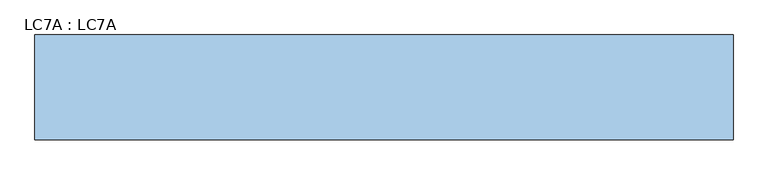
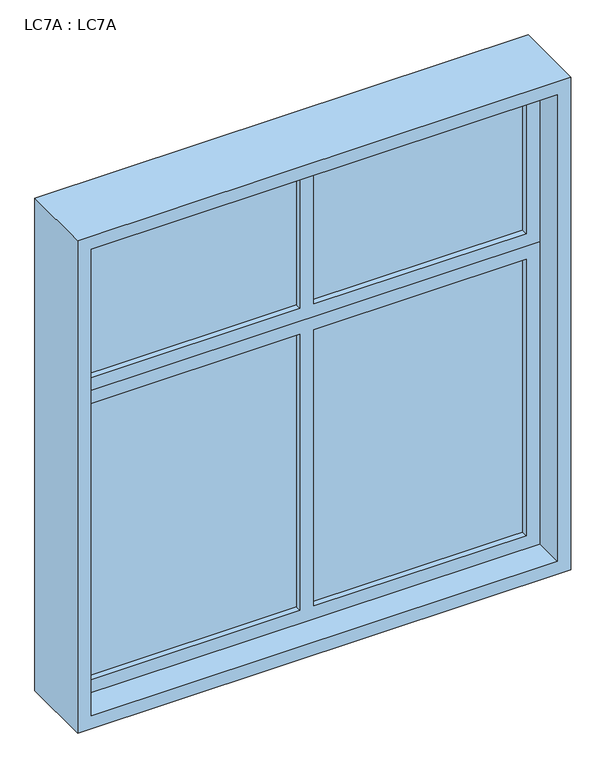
"""IFC4 building model written with IfcOpenShell, lengths in millimetres: window geometry, LC7A : LC7A."""

import ifcopenshell
import ifcopenshell.guid

model = None  # the IFC model being written
_history = None  # IfcOwnerHistory: only IFC2X3 demands one
_inside = {}  # id of a spatial element -> (the spatial element, [elements in it])
_under = {}  # id of a project, library or spatial element -> (it, [spatial elements below it])
_declared = {}  # id of a project -> (the project, [libraries it declares])
_typed = {}  # id of a type object -> (the type object, [elements of that type])
_made_of = {}  # id of a material, layer set ... -> (it, [elements and type objects made of it])


def new_model(schema):
    """Start an empty IFC model of exactly this schema.

    Asked for "IFC4X3", IfcOpenShell would pick the latest addendum, in which some entities
    have other attributes; the version numbers below select the first issue.
    IFC2X3 requires an IfcOwnerHistory on every rooted entity: one is made here for all.
    """
    global model, _history
    if schema == "IFC4X3":
        model = ifcopenshell.file(schema_version=(4, 3, 0, 0))
    else:
        model = ifcopenshell.file(schema=schema)
    _inside.clear()
    _under.clear()
    _declared.clear()
    _typed.clear()
    _made_of.clear()
    _history = None
    if model.schema == "IFC2X3":
        org = make("IfcOrganization", Name="unknown")
        user = make(
            "IfcPersonAndOrganization",
            ThePerson=make("IfcPerson", FamilyName="unknown"),
            TheOrganization=org,
        )
        app = make(
            "IfcApplication",
            ApplicationDeveloper=org,
            Version="unknown",
            ApplicationFullName="unknown",
            ApplicationIdentifier="unknown",
        )
        _history = make(
            "IfcOwnerHistory",
            OwningUser=user,
            OwningApplication=app,
            ChangeAction="ADDED",
            CreationDate=0,
        )
    return model


def make(cls, **values):
    """One entity of the class cls with the attributes given. An attribute that is None is left unset."""
    return model.create_entity(
        cls, **{name: value for name, value in values.items() if value is not None}
    )


def rooted(cls, **values):
    """An entity with a GlobalId (a new one), such as an element, a storey or a relation."""
    return make(cls, GlobalId=ifcopenshell.guid.new(), OwnerHistory=_history, **values)


def si_unit(unit_type, name, prefix=None):
    """IfcSIUnit, for example si_unit("LENGTHUNIT", "METRE", prefix="MILLI")."""
    return make("IfcSIUnit", UnitType=unit_type, Prefix=prefix, Name=name)


def assignment(units):
    """IfcUnitAssignment: the units of a project."""
    return None if units is None else make("IfcUnitAssignment", Units=units)


def point(xyz):
    """IfcCartesianPoint."""
    return None if xyz is None else make("IfcCartesianPoint", Coordinates=xyz)


def direction(xyz):
    """IfcDirection."""
    return None if xyz is None else make("IfcDirection", DirectionRatios=xyz)


def frame(location, z_axis=None, x_axis=None):
    """IfcAxis2Placement3D, a coordinate frame: its origin and axes. An axis left out is left unset."""
    return make(
        "IfcAxis2Placement3D",
        Location=point(location),
        Axis=direction(z_axis),
        RefDirection=direction(x_axis),
    )


def origin():
    """The frame at (0, 0, 0) with its axes left unset."""
    return frame((0.0, 0.0, 0.0))


def place(relative_to, where):
    """IfcLocalPlacement: puts the frame where relative to a parent placement (None: the world)."""
    return make(
        "IfcLocalPlacement", PlacementRelTo=relative_to, RelativePlacement=where
    )


def context(
    kind, dimensions, precision=None, world=None, true_north=None, identifier=None
):
    """IfcGeometricRepresentationContext, for example the 3D "Model" context."""
    return make(
        "IfcGeometricRepresentationContext",
        ContextIdentifier=identifier,
        ContextType=kind,
        CoordinateSpaceDimension=dimensions,
        Precision=precision,
        WorldCoordinateSystem=world,
        TrueNorth=true_north,
    )


def project(units=None, contexts=None):
    """IfcProject with its units and contexts."""
    return rooted(
        "IfcProject",
        Name="project",
        RepresentationContexts=contexts,
        UnitsInContext=assignment(units),
    )


def spatial(cls, under=None, at=None, **own):
    """A site, building, storey or space (cls), placed at a placement, below another one or the project."""
    s = rooted(cls, ObjectPlacement=at, **own)
    if under is not None:
        _under.setdefault(under.id(), (under, []))[1].append(s)
    return s


def polyline(points):
    """IfcPolyline through the points."""
    return make("IfcPolyline", Points=[point(p) for p in points])


def outline(outer, holes=None, kind="AREA"):
    """IfcArbitraryClosedProfileDef: a profile drawn as a closed curve; with holes, ...WithVoids."""
    if holes is None:
        return make("IfcArbitraryClosedProfileDef", ProfileType=kind, OuterCurve=outer)
    return make(
        "IfcArbitraryProfileDefWithVoids",
        ProfileType=kind,
        OuterCurve=outer,
        InnerCurves=holes,
    )


def extrude(swept, where, along, depth):
    """IfcExtrudedAreaSolid: the profile swept, set in the frame where, extruded along a direction by depth."""
    return make(
        "IfcExtrudedAreaSolid",
        SweptArea=swept,
        Position=where,
        ExtrudedDirection=direction(along),
        Depth=depth,
    )


def shape(context_of_items, identifier, shape_type, items):
    """IfcShapeRepresentation: the items that make up one representation, for example the "Body"."""
    return make(
        "IfcShapeRepresentation",
        ContextOfItems=context_of_items,
        RepresentationIdentifier=identifier,
        RepresentationType=shape_type,
        Items=items,
    )


def source(mapping_origin, context_of_items, identifier, shape_type, items):
    """IfcRepresentationMap: a shape defined once, which mapped items show again and again."""
    return make(
        "IfcRepresentationMap",
        MappingOrigin=mapping_origin,
        MappedRepresentation=shape(context_of_items, identifier, shape_type, items),
    )


def transform(
    local_origin,
    x_axis=None,
    y_axis=None,
    z_axis=None,
    scale=None,
    scale2=None,
    scale3=None,
    uniform=True,
):
    """IfcCartesianTransformationOperator3D, or its non-uniform kind. x_axis, y_axis, z_axis: its Axis1, 2, 3."""
    if uniform:
        return make(
            "IfcCartesianTransformationOperator3D",
            Axis1=direction(x_axis),
            Axis2=direction(y_axis),
            LocalOrigin=point(local_origin),
            Scale=scale,
            Axis3=direction(z_axis),
        )
    return make(
        "IfcCartesianTransformationOperator3DnonUniform",
        Axis1=direction(x_axis),
        Axis2=direction(y_axis),
        LocalOrigin=point(local_origin),
        Scale=scale,
        Axis3=direction(z_axis),
        Scale2=scale2,
        Scale3=scale3,
    )


def mapped(mapping_source, mapping_target):
    """IfcMappedItem: shows the shape of a source again, moved by a transform."""
    return make(
        "IfcMappedItem", MappingSource=mapping_source, MappingTarget=mapping_target
    )


def made_of(thing, what):
    """Note that an element or type object is made of a material, layer set ...; save() writes the relation."""
    if what is not None:
        _made_of.setdefault(what.id(), (what, []))[1].append(thing)
    return thing


def element(
    cls,
    number,
    at=None,
    inside=None,
    cuts=None,
    type_object=None,
    material=None,
    context=None,
    identifier="Body",
    shape_type=None,
    held_by="IfcProductDefinitionShape",
    body=None,
    shapes=None,
    **own,
):
    """One element of the class cls, such as IfcWall. Its Tag is "e" and its number.

    at: its placement. inside: the storey or other place that contains it. cuts: it is an
    opening in that element (IfcRelVoidsElement). A single representation is given by context,
    identifier, shape_type and body (its items); several are given by shapes. held_by: the class
    of the entity that holds the representations. save() writes the other relations.
    """
    e = rooted(cls, Tag="e%d" % number, ObjectPlacement=at, **own)
    if body is not None:
        shapes = [shape(context, identifier, shape_type, body)]
    if shapes is not None:
        e.Representation = make(held_by, Representations=shapes)
    if inside is not None:
        _inside.setdefault(inside.id(), (inside, []))[1].append(e)
    if cuts is not None:
        rooted(
            "IfcRelVoidsElement", RelatingBuildingElement=cuts, RelatedOpeningElement=e
        )
    if type_object is not None:
        _typed.setdefault(type_object.id(), (type_object, []))[1].append(e)
    return made_of(e, material)


def aggregate(whole, parts):
    """IfcRelAggregates: a whole, such as a stair, and the parts it consists of."""
    return rooted("IfcRelAggregates", RelatingObject=whole, RelatedObjects=parts)


def save(model, path):
    """Write the relations noted so far, then the file.

    IfcRelAggregates (storeys below a building ...), IfcRelContainedInSpatialStructure (elements
    in a storey), IfcRelDefinesByType, IfcRelAssociatesMaterial and IfcRelDeclares: one each for
    every whole, place, type object, material and project.
    """
    for whole, parts in _under.values():
        aggregate(whole, parts)
    for where, things in _inside.values():
        rooted(
            "IfcRelContainedInSpatialStructure",
            RelatedElements=things,
            RelatingStructure=where,
        )
    for kind, things in _typed.values():
        rooted("IfcRelDefinesByType", RelatedObjects=things, RelatingType=kind)
    for what, things in _made_of.values():
        rooted("IfcRelAssociatesMaterial", RelatedObjects=things, RelatingMaterial=what)
    for by, libraries in _declared.values():
        rooted("IfcRelDeclares", RelatingContext=by, RelatedDefinitions=libraries)
    model.write(path)


def lc7a_lc7a_17cb4d8c(model_context):
    return source(origin(), model_context, "Body", "SweptSolid", [
        extrude(outline(polyline([(-25.0, -2.5), (-800.0, -2.5), (-800.0, 2.5), (-25.0, 2.5), (-25.0, -2.5)])), frame((0.0, 0.0, 2765.6002921), z_axis=(0.0, 0.0, 1.0), x_axis=(1.0, 0.0, 0.0)), (0.0, 0.0, 1.0), 534.3997079),
        extrude(outline(polyline([(800.0, -2.5), (25.0, -2.5), (25.0, 2.5), (800.0, 2.5), (800.0, -2.5)])), frame((0.0, 0.0, 2765.6002921), z_axis=(0.0, 0.0, 1.0), x_axis=(1.0, 0.0, 0.0)), (0.0, 0.0, 1.0), 534.3997079),
        extrude(outline(polyline([(-25.0, -2.5), (-800.0, -2.5), (-800.0, 2.5), (-25.0, 2.5), (-25.0, -2.5)])), frame((0.0, 0.0, 1600.0), z_axis=(0.0, 0.0, 1.0), x_axis=(1.0, 0.0, 0.0)), (0.0, 0.0, 1.0), 1065.6002921),
        extrude(outline(polyline([(800.0, -2.5), (25.0, -2.5), (25.0, 2.5), (800.0, 2.5), (800.0, -2.5)])), frame((0.0, 0.0, 1600.0), z_axis=(0.0, 0.0, 1.0), x_axis=(1.0, 0.0, 0.0)), (0.0, 0.0, 1.0), 1065.6002921),
        extrude(outline(polyline([(2715.6002921, 850.0), (2715.6002921, -850.0), (1550.0, -850.0), (1550.0, 850.0), (2715.6002921, 850.0)]), holes=[polyline([(2665.6002921, -25.0), (1600.0, -25.0), (1600.0, -800.0), (2665.6002921, -800.0), (2665.6002921, -25.0)]), polyline([(2665.6002921, 800.0), (1600.0, 800.0), (1600.0, 25.0), (2665.6002921, 25.0), (2665.6002921, 800.0)])]), frame((0.0, -24.9048675, 0.0), z_axis=(0.0, 1.0, 0.0), x_axis=(0.0, 0.0, 1.0)), (0.0, 0.0, 1.0), 50.0),
        extrude(outline(polyline([(3350.0, 850.0), (3350.0, -850.0), (2715.6002921, -850.0), (2715.6002921, 850.0), (3350.0, 850.0)]), holes=[polyline([(3300.0, -25.0), (2765.6002921, -25.0), (2765.6002921, -800.0), (3300.0, -800.0), (3300.0, -25.0)]), polyline([(3300.0, 800.0), (2765.6002921, 800.0), (2765.6002921, 25.0), (3300.0, 25.0), (3300.0, 800.0)])]), frame((0.0, -24.9048675, 0.0), z_axis=(0.0, 1.0, 0.0), x_axis=(0.0, 0.0, 1.0)), (0.0, 0.0, 1.0), 50.0),
        extrude(outline(polyline([(3400.0, 900.0), (3400.0, -900.0), (1500.0, -900.0), (1500.0, 900.0), (3400.0, 900.0)]), holes=[polyline([(3350.0, 850.0), (1550.0, 850.0), (1550.0, -850.0), (3350.0, -850.0), (3350.0, 850.0)])]), frame((0.0, -134.9048675, 0.0), z_axis=(0.0, 1.0, 0.0), x_axis=(0.0, 0.0, 1.0)), (0.0, 0.0, 1.0), 270.0),
    ])


if __name__ == "__main__":
    model = new_model("IFC4")
    model_context = context("Model", 3, world=origin())
    ifc_project = project(units=[si_unit("LENGTHUNIT", "METRE", prefix="MILLI")], contexts=[model_context])
    site = spatial("IfcSite", under=ifc_project)
    building = spatial("IfcBuilding", under=site)
    placement = place(None, origin())
    lc7a_lc7a_shape = lc7a_lc7a_17cb4d8c(model_context)
    element("IfcWindow", 1, ObjectType="LC7A : LC7A", at=placement, inside=building, context=model_context, shape_type="MappedRepresentation", body=[
        mapped(lc7a_lc7a_shape, transform((0.0, 0.0, 0.0), x_axis=(1.0, 0.0, 0.0), y_axis=(0.0, 1.0, 0.0), z_axis=(0.0, 0.0, 1.0))),
    ])
    save(model, "model.ifc")
